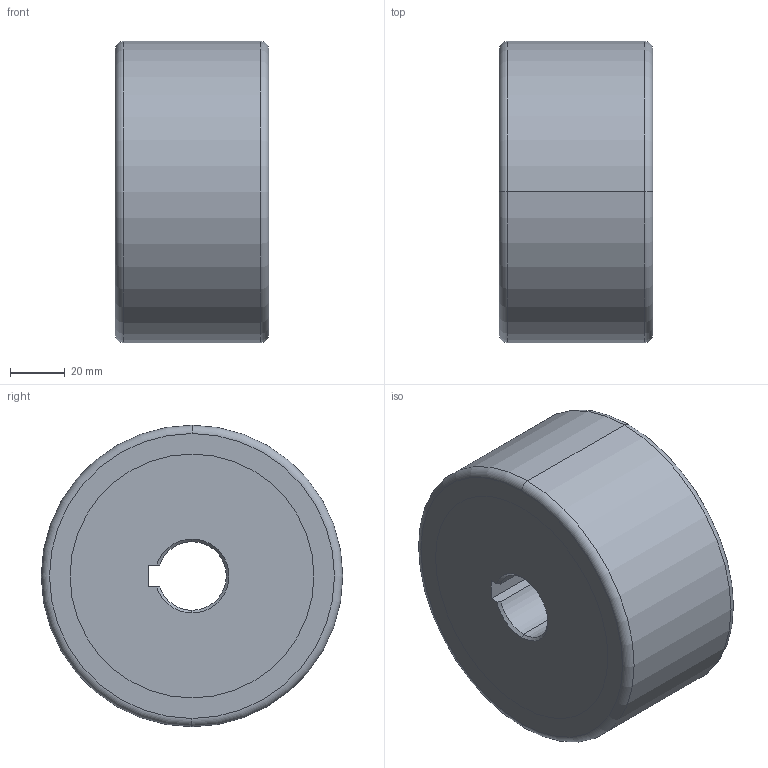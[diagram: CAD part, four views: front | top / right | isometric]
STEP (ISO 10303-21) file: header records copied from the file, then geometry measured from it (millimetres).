
FILE_DESCRIPTION (( 'STEP AP203' ), '1' );
FILE_NAME ('12036354230103.STEP', '2025-12-29T07:23:23', ( '20241006' ), ( '' ), 'SwSTEP 2.0', 'SolidWorks 2021', '' );
FILE_SCHEMA (( 'CONFIG_CONTROL_DESIGN' ));
Length unit declared in the file: millimetre
Products named in the file (1): 12036354230103
Bounding box: 56 x 110 x 110 mm (x, y, z)
Volume: 501730.2 mm3; surface area: 41174.3 mm2
Topology: 1 solids, 1 shells, 22 faces, 50 edges, 32 vertices
Faces by surface type: plane 7, cone 6, cylinder 5, torus 4
Entity records: 715 total; most frequent: DIRECTION 120, CARTESIAN_POINT 117, ORIENTED_EDGE 100, AXIS2_PLACEMENT_3D 51, EDGE_CURVE 50, VERTEX_POINT 32, CIRCLE 28, EDGE_LOOP 26
